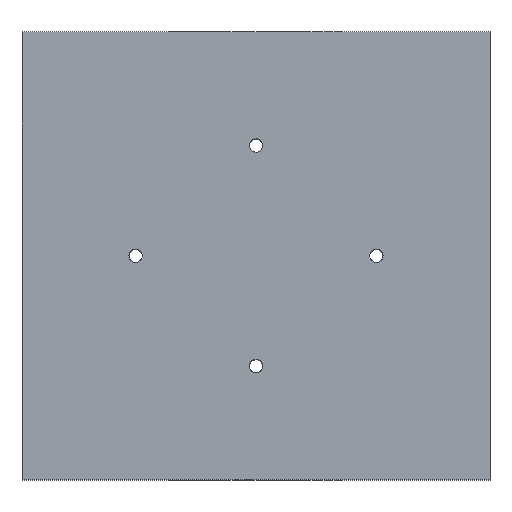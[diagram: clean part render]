
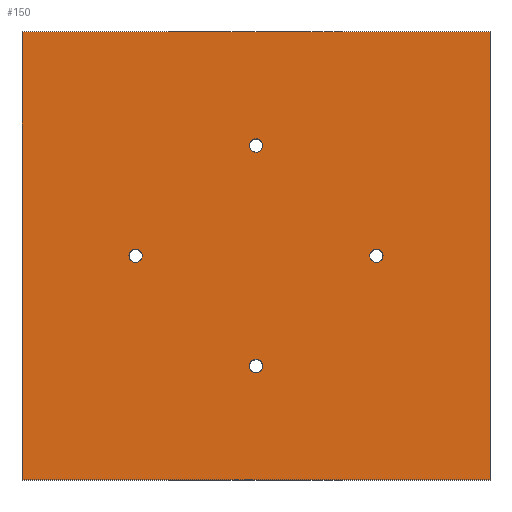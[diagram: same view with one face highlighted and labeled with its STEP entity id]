
A CAD part, top view. The second image highlights one B-rep face of the part: STEP entity #150.
In plain terms, the highlighted planar face has unit normal (0, 0, 1).
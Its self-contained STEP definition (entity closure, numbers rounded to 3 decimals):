
#3 = DIRECTION ( 'NONE',  ( 0., 0., 1. ) ) ;
#21 = ORIENTED_EDGE ( 'NONE', *, *, #993, .F. ) ;
#23 = CIRCLE ( 'NONE', #1250, 1. ) ;
#27 = CARTESIAN_POINT ( 'NONE',  ( 70., 67., 19. ) ) ;
#42 = VERTEX_POINT ( 'NONE', #431 ) ;
#54 = VERTEX_POINT ( 'NONE', #1492 ) ;
#67 = VERTEX_POINT ( 'NONE', #300 ) ;
#74 = CARTESIAN_POINT ( 'NONE',  ( 52., 33.5, 19. ) ) ;
#102 = CIRCLE ( 'NONE', #1577, 1. ) ;
#111 = DIRECTION ( 'NONE',  ( -1., 0., 0. ) ) ;
#112 = DIRECTION ( 'NONE',  ( 1., 0., 0. ) ) ;
#132 = FACE_BOUND ( 'NONE', #1494, .T. ) ;
#135 = CIRCLE ( 'NONE', #2141, 1. ) ;
#150 = ADVANCED_FACE ( 'NONE', ( #1260, #614, #132, #262, #451 ), #1088, .F. ) ;
#171 = CIRCLE ( 'NONE', #593, 1. ) ;
#199 = CIRCLE ( 'NONE', #1431, 1. ) ;
#231 = CARTESIAN_POINT ( 'NONE',  ( 17., 33.5, 19. ) ) ;
#262 = FACE_BOUND ( 'NONE', #1776, .T. ) ;
#300 = CARTESIAN_POINT ( 'NONE',  ( 0., 67., 19. ) ) ;
#314 = VERTEX_POINT ( 'NONE', #485 ) ;
#336 = DIRECTION ( 'NONE',  ( 1., 0., 0. ) ) ;
#359 = EDGE_CURVE ( 'NONE', #67, #1314, #670, .T. ) ;
#372 = ORIENTED_EDGE ( 'NONE', *, *, #1979, .F. ) ;
#373 = AXIS2_PLACEMENT_3D ( 'NONE', #1155, #1165, #336 ) ;
#375 = CIRCLE ( 'NONE', #2174, 1. ) ;
#431 = CARTESIAN_POINT ( 'NONE',  ( 34., 17., 19. ) ) ;
#451 = FACE_BOUND ( 'NONE', #531, .T. ) ;
#485 = CARTESIAN_POINT ( 'NONE',  ( 36., 50., 19. ) ) ;
#515 = CARTESIAN_POINT ( 'NONE',  ( 35., 17., 19. ) ) ;
#531 = EDGE_LOOP ( 'NONE', ( #1900, #785 ) ) ;
#571 = CARTESIAN_POINT ( 'NONE',  ( 54., 33.5, 19. ) ) ;
#591 = ORIENTED_EDGE ( 'NONE', *, *, #359, .T. ) ;
#593 = AXIS2_PLACEMENT_3D ( 'NONE', #231, #1036, #1905 ) ;
#608 = DIRECTION ( 'NONE',  ( 1., 0., 0. ) ) ;
#614 = FACE_BOUND ( 'NONE', #1921, .T. ) ;
#623 = CARTESIAN_POINT ( 'NONE',  ( 35., 50., 19. ) ) ;
#653 = EDGE_CURVE ( 'NONE', #746, #1599, #1113, .T. ) ;
#670 = LINE ( 'NONE', #853, #1361 ) ;
#671 = LINE ( 'NONE', #2041, #1653 ) ;
#695 = LINE ( 'NONE', #1537, #1323 ) ;
#716 = CARTESIAN_POINT ( 'NONE',  ( 16., 33.5, 19. ) ) ;
#723 = EDGE_LOOP ( 'NONE', ( #591, #2152, #1602, #1274 ) ) ;
#739 = CARTESIAN_POINT ( 'NONE',  ( 34., 50., 19. ) ) ;
#746 = VERTEX_POINT ( 'NONE', #976 ) ;
#775 = VERTEX_POINT ( 'NONE', #27 ) ;
#778 = EDGE_CURVE ( 'NONE', #1314, #54, #695, .T. ) ;
#785 = ORIENTED_EDGE ( 'NONE', *, *, #1067, .F. ) ;
#853 = CARTESIAN_POINT ( 'NONE',  ( 0., 0., 19. ) ) ;
#866 = CARTESIAN_POINT ( 'NONE',  ( 36., 17., 19. ) ) ;
#939 = CARTESIAN_POINT ( 'NONE',  ( 53., 33.5, 19. ) ) ;
#976 = CARTESIAN_POINT ( 'NONE',  ( 18., 33.5, 19. ) ) ;
#985 = ORIENTED_EDGE ( 'NONE', *, *, #1949, .F. ) ;
#993 = EDGE_CURVE ( 'NONE', #1308, #1219, #23, .T. ) ;
#1036 = DIRECTION ( 'NONE',  ( 0., 0., 1. ) ) ;
#1042 = VERTEX_POINT ( 'NONE', #739 ) ;
#1059 = DIRECTION ( 'NONE',  ( 1., 0., 0. ) ) ;
#1067 = EDGE_CURVE ( 'NONE', #1128, #42, #135, .T. ) ;
#1088 = PLANE ( 'NONE',  #1573 ) ;
#1108 = DIRECTION ( 'NONE',  ( 0., 0., -1. ) ) ;
#1113 = CIRCLE ( 'NONE', #373, 1. ) ;
#1128 = VERTEX_POINT ( 'NONE', #866 ) ;
#1155 = CARTESIAN_POINT ( 'NONE',  ( 17., 33.5, 19. ) ) ;
#1165 = DIRECTION ( 'NONE',  ( 0., 0., 1. ) ) ;
#1197 = DIRECTION ( 'NONE',  ( 0., 0., 1. ) ) ;
#1219 = VERTEX_POINT ( 'NONE', #74 ) ;
#1250 = AXIS2_PLACEMENT_3D ( 'NONE', #939, #1746, #608 ) ;
#1260 = FACE_OUTER_BOUND ( 'NONE', #723, .T. ) ;
#1261 = DIRECTION ( 'NONE',  ( 0., 0., 1. ) ) ;
#1274 = ORIENTED_EDGE ( 'NONE', *, *, #1450, .T. ) ;
#1307 = CARTESIAN_POINT ( 'NONE',  ( 0., 0., 19. ) ) ;
#1308 = VERTEX_POINT ( 'NONE', #571 ) ;
#1314 = VERTEX_POINT ( 'NONE', #1307 ) ;
#1323 = VECTOR ( 'NONE', #2067, 1000. ) ;
#1341 = DIRECTION ( 'NONE',  ( 0., -1., 0. ) ) ;
#1361 = VECTOR ( 'NONE', #1341, 1000. ) ;
#1390 = EDGE_CURVE ( 'NONE', #314, #1042, #199, .T. ) ;
#1421 = EDGE_CURVE ( 'NONE', #42, #1128, #375, .T. ) ;
#1427 = CARTESIAN_POINT ( 'NONE',  ( 70., 0., 19. ) ) ;
#1431 = AXIS2_PLACEMENT_3D ( 'NONE', #1481, #1261, #112 ) ;
#1450 = EDGE_CURVE ( 'NONE', #775, #67, #671, .T. ) ;
#1465 = CARTESIAN_POINT ( 'NONE',  ( 0., 0., 19. ) ) ;
#1481 = CARTESIAN_POINT ( 'NONE',  ( 35., 50., 19. ) ) ;
#1492 = CARTESIAN_POINT ( 'NONE',  ( 70., 0., 19. ) ) ;
#1494 = EDGE_LOOP ( 'NONE', ( #372, #21 ) ) ;
#1537 = CARTESIAN_POINT ( 'NONE',  ( 0., 0., 19. ) ) ;
#1538 = CARTESIAN_POINT ( 'NONE',  ( 53., 33.5, 19. ) ) ;
#1543 = AXIS2_PLACEMENT_3D ( 'NONE', #623, #2116, #1975 ) ;
#1573 = AXIS2_PLACEMENT_3D ( 'NONE', #1465, #1108, #111 ) ;
#1577 = AXIS2_PLACEMENT_3D ( 'NONE', #1538, #2068, #1059 ) ;
#1596 = LINE ( 'NONE', #1427, #1794 ) ;
#1599 = VERTEX_POINT ( 'NONE', #716 ) ;
#1602 = ORIENTED_EDGE ( 'NONE', *, *, #1773, .T. ) ;
#1617 = CIRCLE ( 'NONE', #1543, 1. ) ;
#1653 = VECTOR ( 'NONE', #1701, 1000. ) ;
#1677 = DIRECTION ( 'NONE',  ( 1., 0., 0. ) ) ;
#1701 = DIRECTION ( 'NONE',  ( -1., 0., 0. ) ) ;
#1734 = EDGE_CURVE ( 'NONE', #1042, #314, #1617, .T. ) ;
#1746 = DIRECTION ( 'NONE',  ( 0., 0., 1. ) ) ;
#1773 = EDGE_CURVE ( 'NONE', #54, #775, #1596, .T. ) ;
#1776 = EDGE_LOOP ( 'NONE', ( #985, #1954 ) ) ;
#1794 = VECTOR ( 'NONE', #2104, 1000. ) ;
#1900 = ORIENTED_EDGE ( 'NONE', *, *, #1421, .F. ) ;
#1905 = DIRECTION ( 'NONE',  ( 1., 0., 0. ) ) ;
#1921 = EDGE_LOOP ( 'NONE', ( #1991, #2081 ) ) ;
#1949 = EDGE_CURVE ( 'NONE', #1599, #746, #171, .T. ) ;
#1954 = ORIENTED_EDGE ( 'NONE', *, *, #653, .F. ) ;
#1975 = DIRECTION ( 'NONE',  ( 1., 0., 0. ) ) ;
#1979 = EDGE_CURVE ( 'NONE', #1219, #1308, #102, .T. ) ;
#1991 = ORIENTED_EDGE ( 'NONE', *, *, #1734, .F. ) ;
#2041 = CARTESIAN_POINT ( 'NONE',  ( 0., 67., 19. ) ) ;
#2044 = DIRECTION ( 'NONE',  ( 1., 0., 0. ) ) ;
#2067 = DIRECTION ( 'NONE',  ( 1., 0., 0. ) ) ;
#2068 = DIRECTION ( 'NONE',  ( 0., 0., 1. ) ) ;
#2081 = ORIENTED_EDGE ( 'NONE', *, *, #1390, .F. ) ;
#2104 = DIRECTION ( 'NONE',  ( 0., 1., 0. ) ) ;
#2116 = DIRECTION ( 'NONE',  ( 0., 0., 1. ) ) ;
#2141 = AXIS2_PLACEMENT_3D ( 'NONE', #2172, #3, #2044 ) ;
#2152 = ORIENTED_EDGE ( 'NONE', *, *, #778, .T. ) ;
#2172 = CARTESIAN_POINT ( 'NONE',  ( 35., 17., 19. ) ) ;
#2174 = AXIS2_PLACEMENT_3D ( 'NONE', #515, #1197, #1677 ) ;
